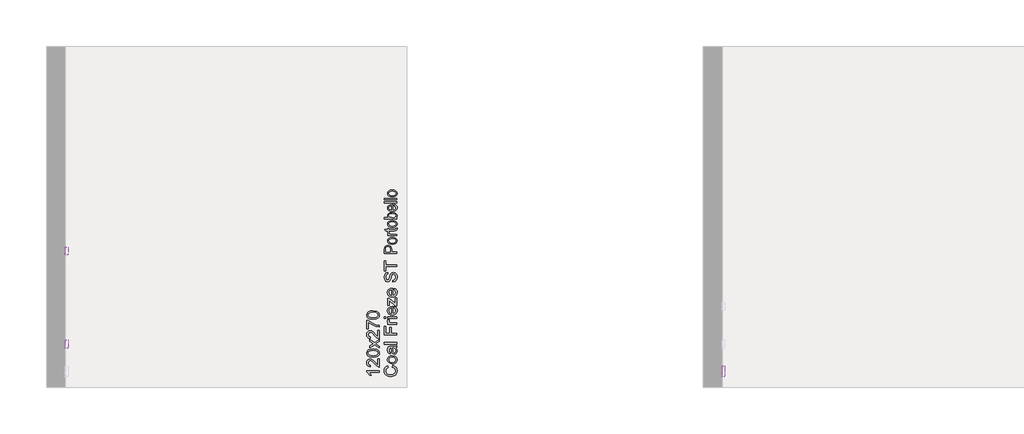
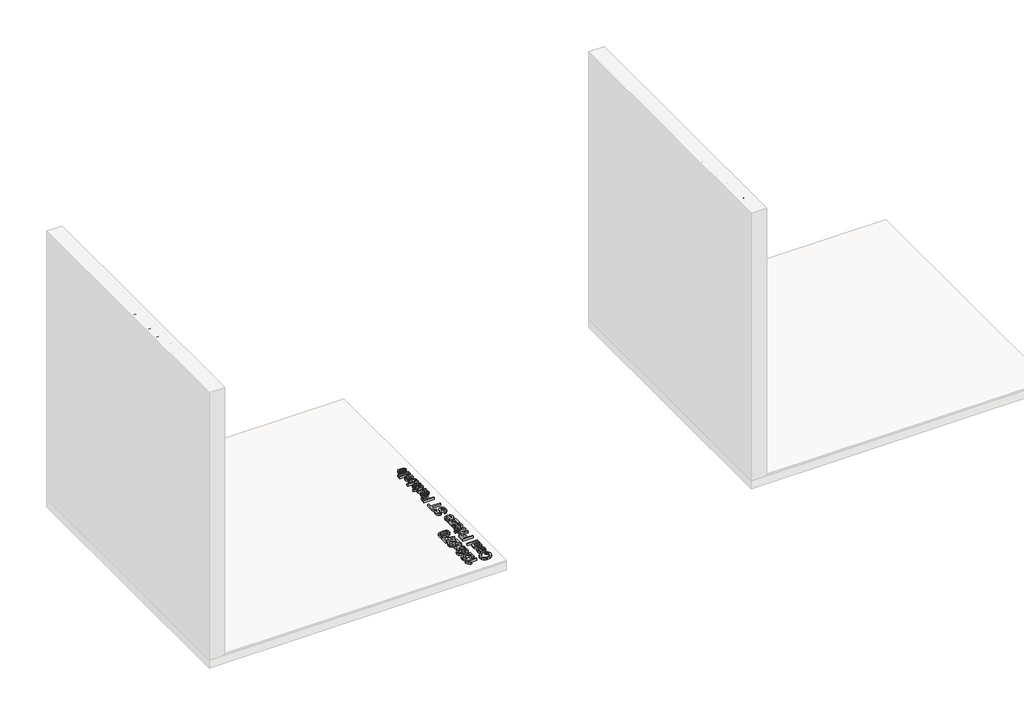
# One storey, part 17 of 19: 6 proxies.
"""IFC4 building model written with IfcOpenShell, lengths in millimetres."""

from ifc_helpers import new_model, si_unit, frame, origin, origin_with_axes, place, context, project, spatial, polyline, outline, extrude, element, save

model = new_model("IFC4")

# Units and contexts
model_context = context("Model", 3, world=origin())
ifc_project = project(units=[si_unit("LENGTHUNIT", "METRE", prefix="MILLI")], contexts=[model_context])

# Site, building, storey
site = spatial("IfcSite", under=ifc_project)
building = spatial("IfcBuilding", under=site)
storey = spatial("IfcBuildingStorey", under=building, Name="PORTOBELLO - SHOWROOM", Elevation=0.0)

# Proxies
placement = place(None, origin())
element("IfcBuildingElementProxy", 1, Name="10mm Arial", ObjectType="10mm Arial", at=placement, inside=storey, context=model_context, shape_type="SweptSolid", body=[
    extrude(outline(polyline([(26157.6221127, 2551.8986693), (26170.1791514, 2548.6613078), (26164.38501, 2534.0288014), (26155.2921934, 2523.3387638), (26143.3482912, 2516.7996613), (26129.0008934, 2514.6199605), (26114.4358321, 2516.2692981), (26102.869009, 2521.2173109), (26094.003053, 2529.2923207), (26087.5405926, 2540.3226492), (26082.27988, 2567.1780349), (26083.7667364, 2581.8258696), (26088.2273056, 2594.4748789), (26095.4285957, 2604.7234582), (26105.1376147, 2612.1700029), (26116.6523211, 2616.7041485), (26129.2706736, 2618.2155303), (26143.0386572, 2616.2596244), (26154.4215393, 2610.3919066), (26163.0637005, 2600.9741275), (26168.6095216, 2588.3680378), (26156.0524828, 2585.3759309), (26145.7517869, 2600.814712), (26128.7801642, 2605.6584916), (26109.1352657, 2600.2874144), (26098.0374922, 2585.8664402), (26094.8369188, 2567.2025603), (26098.6261034, 2545.571099), (26110.4228527, 2531.7509987), (26127.7500947, 2527.1769993), (26138.2316658, 2528.7343664), (26146.9657975, 2533.4064677), (26153.5600823, 2541.1442523), (26157.6221127, 2551.8986693)])), frame((8905.7966975, 0.0, 0.0), z_axis=(1.0, 0.0, 0.0), x_axis=(0.0, 1.0, 0.0)), (0.0, 0.0, 1.0), 20.0),
    extrude(outline(polyline([(26182.7361902, 2553.0758917), (26185.4523856, 2570.8629862), (26193.6009718, 2583.3648427), (26203.6686757, 2589.4900779), (26215.7229424, 2591.531823), (26228.9145776, 2589.0455538), (26239.4513311, 2581.5867464), (26246.3583156, 2569.7440118), (26248.6606437, 2554.1059613), (26244.5894163, 2531.7632615), (26232.7313533, 2519.1203836), (26215.7229424, 2514.6199605), (26202.3718917, 2517.0970326), (26191.8474009, 2524.5282489), (26185.0139929, 2536.6193038), (26182.7361902, 2553.0758917)]), holes=[polyline([(26195.293229, 2553.1004172), (26196.7463628, 2541.7359292), (26201.1057645, 2533.6394596), (26207.6663267, 2528.7926144), (26215.7229424, 2527.1769993), (26223.7427699, 2528.8018114), (26230.2910694, 2533.6762478), (26234.6504711, 2541.8800163), (26236.103605, 2553.4928247), (26234.641274, 2564.5262188), (26230.2542812, 2572.5123238), (26223.6967847, 2577.3591691), (26215.7229424, 2578.9747842), (26207.6663267, 2577.3653005), (26201.1057645, 2572.5368493), (26196.7463628, 2564.4587738), (26195.293229, 2553.1004172)])]), frame((8905.7966975, 0.0, 0.0), z_axis=(1.0, 0.0, 0.0), x_axis=(0.0, 1.0, 0.0)), (0.0, 0.0, 1.0), 20.0),
    extrude(outline(polyline([(26309.8762077, 2525.6073694), (26297.6993137, 2517.0970326), (26284.2470954, 2514.6199605), (26273.7532615, 2516.1098826), (26266.0124112, 2520.5796488), (26261.2391423, 2527.3670716), (26259.6480527, 2535.8099634), (26262.0515484, 2545.7427773), (26268.3668559, 2552.9532644), (26277.1592356, 2557.0735427), (26288.0240172, 2558.9620036), (26309.8026313, 2563.2784857), (26309.8762077, 2566.0743889), (26306.418117, 2575.3450152), (26292.536703, 2578.9747842), (26279.8325115, 2576.5590258), (26273.7747213, 2567.9873753), (26261.2176825, 2569.5570051), (26266.6500733, 2581.8197383), (26277.5884313, 2589.0056999), (26294.1553838, 2591.531823), (26309.3734357, 2589.3000055), (26317.9696116, 2583.6959365), (26321.8201098, 2575.1733369), (26322.4332465, 2564.185928), (26322.4332465, 2548.5632059), (26323.0709086, 2526.7478036), (26325.5725062, 2516.1895903), (26313.0154674, 2516.1895903), (26309.8762077, 2525.6073694)]), holes=[polyline([(26309.8762077, 2550.721447), (26289.6181725, 2546.8709487), (26278.8147046, 2544.835335), (26273.9218741, 2541.5243971), (26272.2050914, 2536.6928802), (26275.945225, 2529.899326), (26286.9203712, 2527.1769993), (26299.6245628, 2530.1813689), (26307.8160686, 2537.4531697), (26309.8026313, 2547.1652543), (26309.8762077, 2550.721447)])]), frame((8905.7966975, 0.0, 0.0), z_axis=(1.0, 0.0, 0.0), x_axis=(0.0, 1.0, 0.0)), (0.0, 0.0, 1.0), 20.0),
    extrude(outline(polyline([(8925.7966975, 26352.2562136), (8925.7966975, 26339.6991748), (8905.7966975, 26339.6991748), (8905.7966975, 26352.2562136), (8925.7966975, 26352.2562136)])), frame((0.0, 0.0, 2516.1895903), z_axis=(0.0, 0.0, 1.0), x_axis=(1.0, 0.0, 0.0)), (0.0, 0.0, 1.0), 100.4563101),
    extrude(outline(polyline([(26407.1932582, 2550.721447), (26419.750297, 2550.721447), (26423.7969989, 2538.1521455), (26433.6807618, 2530.2058944), (26448.7393982, 2527.1769993), (26461.8605227, 2529.4701304), (26470.3340713, 2535.7731752), (26473.1177117, 2544.1976729), (26471.0330471, 2552.0335594), (26462.4981848, 2557.7357303), (26444.2144496, 2562.530459), (26424.5327629, 2568.7231393), (26413.8519223, 2578.0673419), (26410.3325179, 2590.5508043), (26414.6857882, 2604.763312), (26427.4022425, 2614.7942278), (26446.0170714, 2618.2155303), (26465.8826992, 2614.6348123), (26479.126451, 2604.1133872), (26484.1051206, 2588.3925633), (26471.5480819, 2588.3925633), (26469.242688, 2595.8850932), (26464.4356966, 2601.2929586), (26446.5075807, 2605.6584916), (26428.5304139, 2601.3420095), (26422.8895566, 2590.9186863), (26426.8872077, 2582.2121457), (26447.3904975, 2575.1978624), (26469.61057, 2568.8948175), (26481.7629386, 2558.716749), (26485.6747505, 2544.516504), (26481.1743274, 2529.4946558), (26468.2248812, 2518.5317724), (26449.2299075, 2514.6199605), (26426.8013685, 2518.8383407), (26412.6133863, 2531.5425323), (26407.1932582, 2550.721447)])), frame((8905.7966975, 0.0, 0.0), z_axis=(1.0, 0.0, 0.0), x_axis=(0.0, 1.0, 0.0)), (0.0, 0.0, 1.0), 20.0),
    extrude(outline(polyline([(26529.6243862, 2516.1895903), (26529.6243862, 2604.0888617), (26496.6621594, 2604.0888617), (26496.6621594, 2616.6459005), (26575.1436517, 2616.6459005), (26575.1436517, 2604.0888617), (26542.181425, 2604.0888617), (26542.181425, 2516.1895903), (26529.6243862, 2516.1895903)])), frame((8905.7966975, 0.0, 0.0), z_axis=(1.0, 0.0, 0.0), x_axis=(0.0, 1.0, 0.0)), (0.0, 0.0, 1.0), 20.0),
])
element("IfcBuildingElementProxy", 2, Name="10mm Arial", ObjectType="10mm Arial", at=placement, inside=storey, context=model_context, shape_type="SweptSolid", body=[
    extrude(outline(polyline([(6294.5159023, 26160.9791147), (6297.7532639, 26173.5361535), (6312.3857702, 26167.7420121), (6323.0758079, 26158.6491954), (6329.6149103, 26146.7052933), (6331.7946112, 26132.3578955), (6330.1452735, 26117.7928342), (6325.1972607, 26106.2260111), (6317.1222509, 26097.360055), (6306.0919224, 26090.8975947), (6279.2365368, 26085.6368821), (6264.588702, 26087.1237385), (6251.9396927, 26091.5843077), (6241.6911135, 26098.7855978), (6234.2445688, 26108.4946168), (6229.7104232, 26120.0093232), (6228.1990413, 26132.6276757), (6230.1549473, 26146.3956593), (6236.0226651, 26157.7785414), (6245.4404442, 26166.4207026), (6258.0465339, 26171.9665237), (6261.0386408, 26159.4094849), (6245.5998597, 26149.108789), (6240.7560801, 26132.1371663), (6246.1271572, 26112.4922678), (6260.5481314, 26101.3944943), (6279.2120113, 26098.1939209), (6300.8434726, 26101.9831055), (6314.6635729, 26113.7798548), (6319.2375724, 26131.1070967), (6317.6802053, 26141.5886679), (6313.0081039, 26150.3227996), (6305.2703193, 26156.9170844), (6294.5159023, 26160.9791147)])), origin_with_axes(), (0.0, 0.0, 1.0), 20.0),
    extrude(outline(polyline([(6293.3386799, 26186.0931923), (6275.5515855, 26188.8093877), (6263.049729, 26196.9579739), (6256.9244938, 26207.0256778), (6254.8827487, 26219.0799445), (6257.3690179, 26232.2715797), (6264.8278253, 26242.8083332), (6276.6705599, 26249.7153177), (6292.3086103, 26252.0176458), (6314.6513102, 26247.9464184), (6327.2941881, 26236.0883554), (6331.7946112, 26219.0799445), (6329.3175391, 26205.7288938), (6321.8863228, 26195.204403), (6309.7952678, 26188.370995), (6293.3386799, 26186.0931923)]), holes=[polyline([(6293.3141545, 26198.6502311), (6304.6786424, 26200.1033649), (6312.775112, 26204.4627666), (6317.6219573, 26211.0233288), (6319.2375724, 26219.0799445), (6317.6127602, 26227.099772), (6312.7383238, 26233.6480715), (6304.5345553, 26238.0074732), (6292.921747, 26239.4606071), (6281.8883528, 26237.9982761), (6273.9022479, 26233.6112833), (6269.0554026, 26227.0537868), (6267.4397875, 26219.0799445), (6269.0492712, 26211.0233288), (6273.8777224, 26204.4627666), (6281.9557979, 26200.1033649), (6293.3141545, 26198.6502311)])]), origin_with_axes(), (0.0, 0.0, 1.0), 20.0),
    extrude(outline(polyline([(6320.8072022, 26313.2332098), (6329.3175391, 26301.0563158), (6331.7946112, 26287.6040975), (6330.3046891, 26277.1102636), (6325.8349228, 26269.3694133), (6319.0475, 26264.5961444), (6310.6046082, 26263.0050547), (6300.6717944, 26265.4085504), (6293.4613073, 26271.723858), (6289.3410289, 26280.5162377), (6287.452568, 26291.3810193), (6283.1360859, 26313.1596334), (6280.3401828, 26313.2332098), (6271.0695565, 26309.7751191), (6267.4397875, 26295.8937051), (6269.8555459, 26283.1895135), (6278.4271964, 26277.1317234), (6276.8575665, 26264.5746846), (6264.5948334, 26270.0070754), (6257.4088717, 26280.9454334), (6254.8827487, 26297.5123859), (6257.1145661, 26312.7304378), (6262.7186352, 26321.3266137), (6271.2412348, 26325.1771119), (6282.2286437, 26325.7902486), (6297.8513657, 26325.7902486), (6319.6667681, 26326.4279107), (6330.2249813, 26328.9295083), (6330.2249813, 26316.3724695), (6320.8072022, 26313.2332098)]), holes=[polyline([(6295.6931247, 26313.2332098), (6299.5436229, 26292.9751746), (6301.5792366, 26282.1717067), (6304.8901746, 26277.2788762), (6309.7216914, 26275.5620935), (6316.5152456, 26279.3022271), (6319.2375724, 26290.2773733), (6316.2332028, 26302.9815649), (6308.961402, 26311.1730706), (6299.2493173, 26313.1596334), (6295.6931247, 26313.2332098)])]), origin_with_axes(), (0.0, 0.0, 1.0), 20.0),
    extrude(outline(polyline([(6330.2249813, 26343.0561769), (6229.7686712, 26343.0561769), (6229.7686712, 26355.6132157), (6330.2249813, 26355.6132157), (6330.2249813, 26343.0561769)])), origin_with_axes(), (0.0, 0.0, 1.0), 20.0),
    extrude(outline(polyline([(6330.2249813, 26415.2591498), (6229.7686712, 26415.2591498), (6229.7686712, 26482.7532332), (6242.3257099, 26482.7532332), (6242.3257099, 26427.8161886), (6272.148677, 26427.8161886), (6272.148677, 26474.905084), (6284.7057158, 26474.905084), (6284.7057158, 26427.8161886), (6330.2249813, 26427.8161886), (6330.2249813, 26415.2591498)])), origin_with_axes(), (0.0, 0.0, 1.0), 20.0),
    extrude(outline(polyline([(6330.2249813, 26498.4495317), (6256.4523785, 26498.4495317), (6256.4523785, 26509.4369406), (6267.3662111, 26509.4369406), (6257.3107699, 26517.2360389), (6254.8827487, 26525.0841881), (6258.7577724, 26537.6902778), (6270.0149614, 26533.4964231), (6267.4397875, 26524.6672552), (6269.9168596, 26517.5671327), (6276.7839901, 26513.0421841), (6291.450219, 26511.0065704), (6330.2249813, 26511.0065704), (6330.2249813, 26498.4495317)])), origin_with_axes(), (0.0, 0.0, 1.0), 20.0),
    extrude(outline(polyline([(6330.2249813, 26545.538427), (6256.4523785, 26545.538427), (6256.4523785, 26558.0954658), (6330.2249813, 26558.0954658), (6330.2249813, 26545.538427)])), origin_with_axes(), (0.0, 0.0, 1.0), 20.0),
    extrude(outline(polyline([(6242.3257099, 26545.538427), (6229.7686712, 26545.538427), (6229.7686712, 26558.0954658), (6242.3257099, 26558.0954658), (6242.3257099, 26545.538427)])), origin_with_axes(), (0.0, 0.0, 1.0), 20.0),
    extrude(outline(polyline([(6308.2501635, 26628.5816561), (6309.8197933, 26640.8934402), (6319.096551, 26636.4573965), (6326.0311266, 26629.3787337), (6330.35374, 26619.8168675), (6331.7946112, 26607.9312134), (6329.308342, 26593.1975395), (6321.8495346, 26581.8606427), (6309.9025668, 26574.6317615), (6293.9518166, 26572.2221344), (6277.4645718, 26574.656287), (6265.1343936, 26581.9587446), (6257.4456599, 26593.1423572), (6254.8827487, 26607.2199749), (6257.4395286, 26620.8591999), (6265.1098682, 26631.757704), (6277.4155209, 26638.9038117), (6293.8782402, 26641.2858476), (6297.2627545, 26641.2122713), (6297.2627545, 26584.7791732), (6306.6621395, 26586.9527426), (6313.5721897, 26592.001923), (6317.8212267, 26599.2890522), (6319.2375724, 26608.1764681), (6316.6133475, 26620.4882522), (6308.2501635, 26628.5816561)]), holes=[polyline([(6284.7057158, 26584.7791732), (6284.7057158, 26628.7288089), (6273.3258994, 26623.7010883), (6268.9113155, 26616.3802366), (6267.4397875, 26607.170924), (6272.1364143, 26591.7076174), (6277.6270531, 26586.842378), (6284.7057158, 26584.7791732)])]), origin_with_axes(), (0.0, 0.0, 1.0), 20.0),
    extrude(outline(polyline([(6330.2249813, 26645.9947372), (6318.4037065, 26645.9947372), (6269.0094173, 26689.3312362), (6269.0094173, 26676.5044173), (6269.0094173, 26649.1339969), (6256.4523785, 26649.1339969), (6256.4523785, 26707.2103012), (6267.1209564, 26707.2103012), (6310.9479648, 26668.7788954), (6317.6679425, 26662.8927835), (6317.6679425, 26677.4118596), (6317.6679425, 26708.779931), (6330.2249813, 26708.779931), (6330.2249813, 26645.9947372)])), origin_with_axes(), (0.0, 0.0, 1.0), 20.0),
    extrude(outline(polyline([(6308.2501635, 26772.9876019), (6309.8197933, 26785.299386), (6319.096551, 26780.8633423), (6326.0311266, 26773.7846796), (6330.35374, 26764.2228134), (6331.7946112, 26752.3371593), (6329.308342, 26737.6034854), (6321.8495346, 26726.2665885), (6309.9025668, 26719.0377073), (6293.9518166, 26716.6280803), (6277.4645718, 26719.0622328), (6265.1343936, 26726.3646904), (6257.4456599, 26737.5483031), (6254.8827487, 26751.6259207), (6257.4395286, 26765.2651457), (6265.1098682, 26776.1636498), (6277.4155209, 26783.3097576), (6293.8782402, 26785.6917935), (6297.2627545, 26785.6182171), (6297.2627545, 26729.185119), (6306.6621395, 26731.3586885), (6313.5721897, 26736.4078689), (6317.8212267, 26743.6949981), (6319.2375724, 26752.5824139), (6316.6133475, 26764.894198), (6308.2501635, 26772.9876019)]), holes=[polyline([(6284.7057158, 26729.185119), (6284.7057158, 26773.1347547), (6273.3258994, 26768.1070341), (6268.9113155, 26760.7861824), (6267.4397875, 26751.5768698), (6272.1364143, 26736.1135633), (6277.6270531, 26731.2483239), (6284.7057158, 26729.185119)])]), origin_with_axes(), (0.0, 0.0, 1.0), 20.0),
    extrude(outline(polyline([(6295.6931247, 26834.3503187), (6295.6931247, 26846.9073575), (6308.2624262, 26850.9540594), (6316.2086773, 26860.8378224), (6319.2375724, 26875.8964587), (6316.9444413, 26889.0175832), (6310.6413964, 26897.4911318), (6302.2168987, 26900.2747723), (6294.3810123, 26898.1901076), (6288.6788413, 26889.6552453), (6283.8841127, 26871.3715102), (6277.6914324, 26851.6898234), (6268.3472297, 26841.0089828), (6255.8637674, 26837.4895784), (6241.6512596, 26841.8428487), (6231.6203439, 26854.559303), (6228.1990413, 26873.1741319), (6231.7797594, 26893.0397597), (6242.3011845, 26906.2835115), (6258.0220084, 26911.2621812), (6258.0220084, 26898.7051424), (6250.5294784, 26896.3997486), (6245.1216131, 26891.5927572), (6240.7560801, 26873.6646413), (6245.0725622, 26855.6874744), (6255.4958854, 26850.0466172), (6264.2024259, 26854.0442682), (6271.2167093, 26874.5475581), (6277.5197541, 26896.7676306), (6287.6978227, 26908.9199991), (6301.8980677, 26912.831811), (6316.9199158, 26908.3313879), (6327.8827993, 26895.3819417), (6331.7946112, 26876.386968), (6327.5762309, 26853.9584291), (6314.8720394, 26839.7704468), (6295.6931247, 26834.3503187)])), origin_with_axes(), (0.0, 0.0, 1.0), 20.0),
    extrude(outline(polyline([(6330.2249813, 26956.7814467), (6242.3257099, 26956.7814467), (6242.3257099, 26923.8192199), (6229.7686712, 26923.8192199), (6229.7686712, 27002.3007122), (6242.3257099, 27002.3007122), (6242.3257099, 26969.3384855), (6330.2249813, 26969.3384855), (6330.2249813, 26956.7814467)])), origin_with_axes(), (0.0, 0.0, 1.0), 20.0),
])
element("IfcBuildingElementProxy", 3, Name="10mm Arial", ObjectType="10mm Arial", at=placement, inside=storey, context=model_context, shape_type="SweptSolid", body=[
    extrude(outline(polyline([(26129.3687754, 2381.1895903), (26116.8117367, 2381.1895903), (26116.8117367, 2459.4748789), (26104.9168855, 2451.0013303), (26091.6976591, 2444.6614972), (26091.6976591, 2456.531823), (26110.1040216, 2468.2795213), (26121.2753715, 2481.6459005), (26129.3687754, 2481.6459005), (26129.3687754, 2381.1895903)])), frame((3705.7966975, 0.0, 0.0), z_axis=(1.0, 0.0, 0.0), x_axis=(0.0, 1.0, 0.0)), (0.0, 0.0, 1.0), 20.0),
    extrude(outline(polyline([(26223.5465662, 2393.7466291), (26223.5465662, 2381.1895903), (26157.6221127, 2381.1895903), (26158.9710133, 2389.84708), (26166.6106961, 2403.1766709), (26182.3437827, 2417.7325352), (26204.0120323, 2438.652758), (26209.4198976, 2452.8775285), (26204.3063378, 2464.3922349), (26190.9522214, 2469.0888617), (26177.0340193, 2464.5025995), (26171.7487813, 2451.8229334), (26159.1917425, 2453.3925633), (26162.235966, 2465.5388005), (26168.817988, 2474.4108879), (26178.5944521, 2479.8371473), (26191.2220016, 2481.6459005), (26203.9415215, 2479.6348123), (26213.6995915, 2473.6015475), (26219.9076001, 2464.5884386), (26221.9769364, 2453.6378179), (26219.7451189, 2441.730704), (26212.3261653, 2429.4189199), (26194.3367358, 2412.2143053), (26179.8912361, 2400.1355131), (26174.2258534, 2393.7466291), (26223.5465662, 2393.7466291)])), frame((3705.7966975, 0.0, 0.0), z_axis=(1.0, 0.0, 0.0), x_axis=(0.0, 1.0, 0.0)), (0.0, 0.0, 1.0), 20.0),
    extrude(outline(polyline([(26236.103605, 2430.608405), (26239.7946876, 2459.5116671), (26250.7575711, 2476.1767215), (26269.0658317, 2481.6459005), (26283.7320606, 2478.4085389), (26293.8610782, 2469.076599), (26299.7471901, 2454.2141664), (26302.0280585, 2430.608405), (26298.373764, 2401.8277703), (26287.4476688, 2385.1259277), (26279.2163091, 2380.9964523), (26269.0658317, 2379.6199605), (26256.0182836, 2382.0111935), (26246.1099952, 2389.1848924), (26238.6052025, 2406.1749092), (26236.103605, 2430.608405)]), holes=[polyline([(26248.6606437, 2430.6329305), (26250.1321717, 2410.880733), (26254.5467557, 2399.4488), (26261.1195806, 2393.9949495), (26269.0658317, 2392.1769993), (26277.0120828, 2394.0010808), (26283.5849078, 2399.4733255), (26287.9994918, 2410.9113899), (26289.4710197, 2430.6329305), (26288.0485427, 2449.9406039), (26283.7811115, 2461.4614417), (26277.2205493, 2467.1820067), (26268.9186789, 2469.0888617), (26261.058267, 2467.4088673), (26254.7429594, 2462.3688839), (26250.1812226, 2450.1306762), (26248.6606437, 2430.6329305)])]), frame((3705.7966975, 0.0, 0.0), z_axis=(1.0, 0.0, 0.0), x_axis=(0.0, 1.0, 0.0)), (0.0, 0.0, 1.0), 20.0),
    extrude(outline(polyline([(26308.3065779, 2381.1895903), (26335.1374381, 2418.2966209), (26309.8762077, 2454.9621931), (26324.9348441, 2454.9621931), (26337.1240008, 2437.2793319), (26342.8384345, 2428.9651988), (26347.7925787, 2435.7832784), (26361.6739927, 2454.9621931), (26376.7816799, 2454.9621931), (26350.2451253, 2418.2720955), (26375.8006613, 2381.1895903), (26360.7174995, 2381.1895903), (26345.3155066, 2403.5077647), (26342.5196034, 2407.6035176), (26323.4142652, 2381.1895903), (26308.3065779, 2381.1895903)])), frame((3705.7966975, 0.0, 0.0), z_axis=(1.0, 0.0, 0.0), x_axis=(0.0, 1.0, 0.0)), (0.0, 0.0, 1.0), 20.0),
    extrude(outline(polyline([(26448.0036342, 2393.7466291), (26448.0036342, 2381.1895903), (26382.0791807, 2381.1895903), (26383.4280813, 2389.84708), (26391.0677641, 2403.1766709), (26406.8008507, 2417.7325352), (26428.4691002, 2438.652758), (26433.8769656, 2452.8775285), (26428.7634058, 2464.3922349), (26415.4092894, 2469.0888617), (26401.4910873, 2464.5025995), (26396.2058493, 2451.8229334), (26383.6488105, 2453.3925633), (26386.693034, 2465.5388005), (26393.275056, 2474.4108879), (26403.0515201, 2479.8371473), (26415.6790695, 2481.6459005), (26428.3985895, 2479.6348123), (26438.1566594, 2473.6015475), (26444.3646681, 2464.5884386), (26446.4340043, 2453.6378179), (26444.2021869, 2441.730704), (26436.7832333, 2429.4189199), (26418.7938038, 2412.2143053), (26404.3483041, 2400.1355131), (26398.6829214, 2393.7466291), (26448.0036342, 2393.7466291)])), frame((3705.7966975, 0.0, 0.0), z_axis=(1.0, 0.0, 0.0), x_axis=(0.0, 1.0, 0.0)), (0.0, 0.0, 1.0), 20.0),
    extrude(outline(polyline([(26460.560673, 2467.5192319), (26460.560673, 2480.0762706), (26526.4851265, 2480.0762706), (26526.4851265, 2469.9227276), (26507.7844584, 2442.9079264), (26493.4738488, 2408.4864344), (26488.8140102, 2381.1895903), (26476.2569714, 2381.1895903), (26481.2479038, 2409.516504), (26494.9453768, 2441.5345003), (26513.9280877, 2467.5192319), (26460.560673, 2467.5192319)])), frame((3705.7966975, 0.0, 0.0), z_axis=(1.0, 0.0, 0.0), x_axis=(0.0, 1.0, 0.0)), (0.0, 0.0, 1.0), 20.0),
    extrude(outline(polyline([(26537.4725354, 2430.608405), (26541.1636181, 2459.5116671), (26552.1265016, 2476.1767215), (26570.4347622, 2481.6459005), (26585.1009911, 2478.4085389), (26595.2300087, 2469.076599), (26601.1161206, 2454.2141664), (26603.3969889, 2430.608405), (26599.7426945, 2401.8277703), (26588.8165992, 2385.1259277), (26580.5852396, 2380.9964523), (26570.4347622, 2379.6199605), (26557.3872141, 2382.0111935), (26547.4789257, 2389.1848924), (26539.974133, 2406.1749092), (26537.4725354, 2430.608405)]), holes=[polyline([(26550.0295742, 2430.6329305), (26551.5011022, 2410.880733), (26555.9156861, 2399.4488), (26562.4885111, 2393.9949495), (26570.4347622, 2392.1769993), (26578.3810133, 2394.0010808), (26584.9538383, 2399.4733255), (26589.3684222, 2410.9113899), (26590.8399502, 2430.6329305), (26589.4174731, 2449.9406039), (26585.150042, 2461.4614417), (26578.5894797, 2467.1820067), (26570.2876094, 2469.0888617), (26562.4271974, 2467.4088673), (26556.1118898, 2462.3688839), (26551.5501531, 2450.1306762), (26550.0295742, 2430.6329305)])]), frame((3705.7966975, 0.0, 0.0), z_axis=(1.0, 0.0, 0.0), x_axis=(0.0, 1.0, 0.0)), (0.0, 0.0, 1.0), 20.0),
])
element("IfcBuildingElementProxy", 4, Name="10mm Arial", ObjectType="10mm Arial", at=placement, inside=storey, context=model_context, shape_type="SweptSolid", body=[
    extrude(outline(polyline([(6190.2249813, 26132.7257775), (6190.2249813, 26120.1687387), (6111.9396927, 26120.1687387), (6120.4132414, 26108.2738876), (6126.7530744, 26095.0546612), (6114.8827487, 26095.0546612), (6103.1350503, 26113.4610237), (6089.7686712, 26124.6323736), (6089.7686712, 26132.7257775), (6190.2249813, 26132.7257775)])), origin_with_axes(), (0.0, 0.0, 1.0), 20.0),
    extrude(outline(polyline([(6177.6679425, 26226.9035683), (6190.2249813, 26226.9035683), (6190.2249813, 26160.9791147), (6181.5674917, 26162.3280154), (6168.2379007, 26169.9676982), (6153.6820365, 26185.7007848), (6132.7618137, 26207.3690343), (6118.5370432, 26212.7768997), (6107.0223367, 26207.6633399), (6102.3257099, 26194.3092235), (6106.9119721, 26180.3910214), (6119.5916382, 26175.1057834), (6118.0220084, 26162.5487446), (6105.8757712, 26165.5929681), (6097.0036837, 26172.1749901), (6091.5774243, 26181.9514542), (6089.7686712, 26194.5790036), (6091.7797594, 26207.2985236), (6097.8130241, 26217.0565935), (6106.826133, 26223.2646022), (6117.7767537, 26225.3339384), (6129.6838676, 26223.102121), (6141.9956517, 26215.6831674), (6159.2002664, 26197.6937379), (6171.2790586, 26183.2482382), (6177.6679425, 26177.5828555), (6177.6679425, 26226.9035683)])), origin_with_axes(), (0.0, 0.0, 1.0), 20.0),
    extrude(outline(polyline([(6140.8061666, 26239.4606071), (6111.9029045, 26243.1516897), (6095.2378502, 26254.1145732), (6089.7686712, 26272.4228338), (6093.0060327, 26287.0890627), (6102.3379727, 26297.2180803), (6117.2004053, 26303.1041922), (6140.8061666, 26305.3850606), (6169.5868014, 26301.7307661), (6186.288644, 26290.8046708), (6190.4181194, 26282.5733112), (6191.7946112, 26272.4228338), (6189.4033782, 26259.3752857), (6182.2296793, 26249.4669973), (6165.2396625, 26241.9622046), (6140.8061666, 26239.4606071)]), holes=[polyline([(6140.7816412, 26252.0176458), (6160.5338386, 26253.4891738), (6171.9657716, 26257.9037577), (6177.4196222, 26264.4765827), (6179.2375724, 26272.4228338), (6177.4134908, 26280.3690849), (6171.9412462, 26286.9419099), (6160.5031818, 26291.3564938), (6140.7816412, 26292.8280218), (6121.4739678, 26291.4055448), (6109.95313, 26287.1381136), (6104.2325649, 26280.5775514), (6102.3257099, 26272.275681), (6104.0057044, 26264.4152691), (6109.0456877, 26258.0999615), (6121.2838954, 26253.5382247), (6140.7816412, 26252.0176458)])]), origin_with_axes(), (0.0, 0.0, 1.0), 20.0),
    extrude(outline(polyline([(6190.2249813, 26311.66358), (6153.1179507, 26338.4944402), (6116.4523785, 26313.2332098), (6116.4523785, 26328.2918462), (6134.1352398, 26340.4810029), (6142.4493729, 26346.1954366), (6135.6312932, 26351.1495808), (6116.4523785, 26365.0309947), (6116.4523785, 26380.138682), (6153.1424762, 26353.6021274), (6190.2249813, 26379.1576634), (6190.2249813, 26364.0745016), (6167.9068069, 26348.6725087), (6163.8110541, 26345.8766055), (6190.2249813, 26326.7712672), (6190.2249813, 26311.66358)])), origin_with_axes(), (0.0, 0.0, 1.0), 20.0),
    extrude(outline(polyline([(6177.6679425, 26451.3606363), (6190.2249813, 26451.3606363), (6190.2249813, 26385.4361827), (6181.5674917, 26386.7850834), (6168.2379007, 26394.4247662), (6153.6820365, 26410.1578528), (6132.7618137, 26431.8261023), (6118.5370432, 26437.2339677), (6107.0223367, 26432.1204079), (6102.3257099, 26418.7662915), (6106.9119721, 26404.8480893), (6119.5916382, 26399.5628514), (6118.0220084, 26387.0058126), (6105.8757712, 26390.0500361), (6097.0036837, 26396.6320581), (6091.5774243, 26406.4085221), (6089.7686712, 26419.0360716), (6091.7797594, 26431.7555916), (6097.8130241, 26441.5136615), (6106.826133, 26447.7216702), (6117.7767537, 26449.7910064), (6129.6838676, 26447.559189), (6141.9956517, 26440.1402354), (6159.2002664, 26422.1508059), (6171.2790586, 26407.7053062), (6177.6679425, 26402.0399235), (6177.6679425, 26451.3606363)])), origin_with_axes(), (0.0, 0.0, 1.0), 20.0),
    extrude(outline(polyline([(6103.8953398, 26463.917675), (6091.338301, 26463.917675), (6091.338301, 26529.8421286), (6101.4918441, 26529.8421286), (6128.5066453, 26511.1414605), (6162.9281373, 26496.8308509), (6190.2249813, 26492.1710123), (6190.2249813, 26479.6139735), (6161.8980677, 26484.6049059), (6129.8800714, 26498.3023789), (6103.8953398, 26517.2850898), (6103.8953398, 26463.917675)])), origin_with_axes(), (0.0, 0.0, 1.0), 20.0),
    extrude(outline(polyline([(6140.8061666, 26540.8295375), (6111.9029045, 26544.5206202), (6095.2378502, 26555.4835036), (6089.7686712, 26573.7917643), (6093.0060327, 26588.4579931), (6102.3379727, 26598.5870107), (6117.2004053, 26604.4731227), (6140.8061666, 26606.753991), (6169.5868014, 26603.0996965), (6186.288644, 26592.1736013), (6190.4181194, 26583.9422417), (6191.7946112, 26573.7917643), (6189.4033782, 26560.7442162), (6182.2296793, 26550.8359278), (6165.2396625, 26543.3311351), (6140.8061666, 26540.8295375)]), holes=[polyline([(6140.7816412, 26553.3865763), (6160.5338386, 26554.8581042), (6171.9657716, 26559.2726882), (6177.4196222, 26565.8455132), (6179.2375724, 26573.7917643), (6177.4134908, 26581.7380154), (6171.9412462, 26588.3108403), (6160.5031818, 26592.7254243), (6140.7816412, 26594.1969523), (6121.4739678, 26592.7744752), (6109.95313, 26588.5070441), (6104.2325649, 26581.9464818), (6102.3257099, 26573.6446115), (6104.0057044, 26565.7841995), (6109.0456877, 26559.4688919), (6121.2838954, 26554.9071552), (6140.7816412, 26553.3865763)])]), origin_with_axes(), (0.0, 0.0, 1.0), 20.0),
])
element("IfcBuildingElementProxy", 5, Name="10mm Arial Narrow", ObjectType="10mm Arial Narrow", at=placement, inside=storey, context=model_context, shape_type="SweptSolid", body=[
    extrude(outline(polyline([(6330.2249813, 27062.6596713), (6229.5063776, 27062.6596713), (6229.5063776, 27093.956556), (6231.3846983, 27110.2522575), (6240.8651415, 27121.7252436), (6257.8842503, 27126.014922), (6269.9600758, 27124.2286136), (6279.5864696, 27118.8696884), (6285.887728, 27109.1258996), (6287.9881475, 27094.1850004), (6287.9881475, 27072.406633), (6330.2249813, 27072.406633), (6330.2249813, 27062.6596713)]), holes=[polyline([(6276.6166922, 27072.406633), (6276.6166922, 27095.3779879), (6272.085878, 27111.2421833), (6258.4172873, 27116.2679604), (6248.2515108, 27113.7931459), (6242.451561, 27107.8155171), (6240.8778328, 27095.1495435), (6240.8778328, 27072.406633), (6276.6166922, 27072.406633)])]), origin_with_axes(), (0.0, 0.0, 1.0), 20.0),
    extrude(outline(polyline([(6293.6738751, 27134.1373901), (6277.0830996, 27136.091859), (6265.1310147, 27141.9552656), (6257.9064602, 27150.8138323), (6255.4982753, 27161.7537814), (6257.9064602, 27172.566817), (6265.1310147, 27181.4507665), (6276.8927292, 27187.3903212), (6292.9123937, 27189.3701728), (6310.0742803, 27187.4252224), (6322.2167355, 27181.5903714), (6329.4412901, 27172.7413232), (6331.8494749, 27161.7537814), (6329.4349444, 27150.8931533), (6322.1913528, 27142.0187224), (6310.2329223, 27136.1077232), (6293.6738751, 27134.1373901)]), holes=[polyline([(6293.6484924, 27143.8843517), (6306.2002438, 27145.1883886), (6315.0715019, 27149.1004992), (6320.3447604, 27154.9416959), (6322.1025133, 27162.0329913), (6320.3288962, 27168.7530645), (6315.0080451, 27174.4451378), (6306.1209228, 27178.3286928), (6293.6484924, 27179.6232111), (6281.1348151, 27178.3191743), (6272.2762484, 27174.4070637), (6267.0029898, 27168.5658669), (6265.245237, 27161.4745716), (6267.0125083, 27154.7069058), (6272.3143224, 27149.0243511), (6281.1824077, 27145.1693516), (6293.6484924, 27143.8843517)])]), origin_with_axes(), (0.0, 0.0, 1.0), 20.0),
    extrude(outline(polyline([(6322.1025133, 27260.8478916), (6331.8494749, 27262.4723852), (6331.8494749, 27255.1113985), (6329.7300184, 27246.8366342), (6323.9300686, 27242.5215731), (6309.2842434, 27241.3539683), (6266.8697306, 27241.3539683), (6266.8697306, 27233.2315002), (6263.6207433, 27233.2315002), (6268.4942242, 27231.6070066), (6266.8697306, 27224.0429583), (6269.1922488, 27217.9637986), (6275.6775319, 27214.0929349), (6291.0848384, 27212.1130833), (6330.2249813, 27212.1130833), (6330.2249813, 27202.3661217), (6257.1227689, 27202.3661217), (6257.1227689, 27212.1130833), (6266.8189651, 27212.1130833), (6257.731954, 27218.3572306), (6255.4982753, 27224.7536742), (6257.1227689, 27233.2315002), (6257.1227689, 27241.3539683), (6240.8778328, 27241.3539683), (6232.7553648, 27251.1009299), (6257.1227689, 27251.1009299), (6257.1227689, 27260.8478916), (6266.8697306, 27260.8478916), (6266.8697306, 27251.1009299), (6311.5179221, 27251.1009299), (6319.5134766, 27251.9639422), (6322.1025133, 27256.5835959), (6322.1025133, 27260.8478916)])), origin_with_axes(), (0.0, 0.0, 1.0), 20.0),
    extrude(outline(polyline([(6293.6738751, 27267.345866), (6277.0830996, 27269.3003349), (6265.1310147, 27275.1637415), (6257.9064602, 27284.0223082), (6255.4982753, 27294.9622574), (6257.9064602, 27305.775293), (6265.1310147, 27314.6592424), (6276.8927292, 27320.5987971), (6292.9123937, 27322.5786487), (6310.0742803, 27320.6336984), (6322.2167355, 27314.7988473), (6329.4412901, 27305.9497991), (6331.8494749, 27294.9622574), (6329.4349444, 27284.1016292), (6322.1913528, 27275.2271983), (6310.2329223, 27269.3161991), (6293.6738751, 27267.345866)]), holes=[polyline([(6293.6484924, 27277.0928277), (6306.2002438, 27278.3968645), (6315.0715019, 27282.3089751), (6320.3447604, 27288.1501719), (6322.1025133, 27295.2414672), (6320.3288962, 27301.9615404), (6315.0080451, 27307.6536137), (6306.1209228, 27311.5371687), (6293.6484924, 27312.8316871), (6281.1348151, 27311.5276502), (6272.2762484, 27307.6155396), (6267.0029898, 27301.7743429), (6265.245237, 27294.6830475), (6267.0125083, 27287.9153818), (6272.3143224, 27282.232827), (6281.1824077, 27278.3778275), (6293.6484924, 27277.0928277)])]), origin_with_axes(), (0.0, 0.0, 1.0), 20.0),
    extrude(outline(polyline([(6330.2249813, 27345.3215593), (6330.2249813, 27335.5745976), (6229.5063776, 27335.5745976), (6229.5063776, 27345.3215593), (6264.9152617, 27345.3215593), (6257.8334849, 27352.72062), (6255.4982753, 27361.9218533), (6259.6991142, 27374.80358), (6272.4285446, 27384.0809615), (6293.1154554, 27387.5583931), (6309.5697989, 27385.6261341), (6321.772538, 27379.8293571), (6329.3302407, 27371.4562348), (6331.8494749, 27361.7949398), (6329.2350555, 27352.4541015), (6321.4679455, 27345.3215593), (6330.2249813, 27345.3215593)]), holes=[polyline([(6293.1154554, 27345.3215593), (6310.3630087, 27347.4029417), (6319.0946618, 27353.291731), (6322.1025133, 27361.7441743), (6320.313032, 27367.6869019), (6314.9445883, 27372.9252592), (6293.5215788, 27377.8114314), (6272.085878, 27373.1029382), (6266.9553972, 27367.8582352), (6265.245237, 27361.5411126), (6267.0347182, 27355.5634838), (6272.4031619, 27350.2711882), (6293.1154554, 27345.3215593)])]), origin_with_axes(), (0.0, 0.0, 1.0), 20.0),
    extrude(outline(polyline([(6307.4820708, 27439.5421886), (6309.1065644, 27449.2891502), (6318.993131, 27445.5896199), (6326.1129819, 27439.770633), (6330.4153517, 27432.0669797), (6331.8494749, 27422.7134501), (6329.4349444, 27411.1198961), (6322.1913528, 27401.9757739), (6310.3852185, 27396.0362191), (6294.2830602, 27394.0563675), (6277.6161365, 27396.0457376), (6265.4356073, 27402.0138479), (6257.9826083, 27411.0278838), (6255.4982753, 27422.1550304), (6257.8969416, 27432.8379796), (6265.0929407, 27441.5854969), (6276.8324453, 27447.420348), (6292.8616283, 27449.3652984), (6296.1106155, 27449.2891502), (6296.1106155, 27403.8033292), (6315.5537734, 27409.8063407), (6320.4653283, 27415.736377), (6322.1025133, 27422.8403637), (6318.4474026, 27433.0188314), (6307.4820708, 27439.5421886)]), holes=[polyline([(6286.3636539, 27404.4632797), (6286.3636539, 27439.5421886), (6272.0985694, 27435.2778928), (6266.9585701, 27429.4525603), (6265.245237, 27422.2311785), (6270.9563473, 27410.0220938), (6286.3636539, 27404.4632797)])]), origin_with_axes(), (0.0, 0.0, 1.0), 20.0),
    extrude(outline(polyline([(6330.2249813, 27462.2850991), (6229.5063776, 27462.2850991), (6229.5063776, 27472.0320607), (6330.2249813, 27472.0320607), (6330.2249813, 27462.2850991)])), origin_with_axes(), (0.0, 0.0, 1.0), 20.0),
    extrude(outline(polyline([(6330.2249813, 27488.2769968), (6229.5063776, 27488.2769968), (6229.5063776, 27498.0239585), (6330.2249813, 27498.0239585), (6330.2249813, 27488.2769968)])), origin_with_axes(), (0.0, 0.0, 1.0), 20.0),
    extrude(outline(polyline([(6293.6738751, 27509.3954138), (6277.0830996, 27511.3498826), (6265.1310147, 27517.2132892), (6257.9064602, 27526.071856), (6255.4982753, 27537.0118051), (6257.9064602, 27547.8248407), (6265.1310147, 27556.7087901), (6276.8927292, 27562.6483449), (6292.9123937, 27564.6281965), (6310.0742803, 27562.6832461), (6322.2167355, 27556.848395), (6329.4412901, 27547.9993468), (6331.8494749, 27537.0118051), (6329.4349444, 27526.1511769), (6322.1913528, 27517.276746), (6310.2329223, 27511.3657468), (6293.6738751, 27509.3954138)]), holes=[polyline([(6293.6484924, 27519.1423754), (6306.2002438, 27520.4464123), (6315.0715019, 27524.3585229), (6320.3447604, 27530.1997196), (6322.1025133, 27537.2910149), (6320.3288962, 27544.0110881), (6315.0080451, 27549.7031614), (6306.1209228, 27553.5867165), (6293.6484924, 27554.8812348), (6281.1348151, 27553.5771979), (6272.2762484, 27549.6650874), (6267.0029898, 27543.8238906), (6265.245237, 27536.7325953), (6267.0125083, 27529.9649295), (6272.3143224, 27524.2823747), (6281.1824077, 27520.4273752), (6293.6484924, 27519.1423754)])]), origin_with_axes(), (0.0, 0.0, 1.0), 20.0),
])
element("IfcBuildingElementProxy", 6, Name="10mm Arial Narrow", ObjectType="10mm Arial Narrow", at=placement, inside=storey, context=model_context, shape_type="SweptSolid", body=[
    extrude(outline(polyline([(27050.7745931, 2516.1895903), (27050.7745931, 2616.9081941), (27082.0714778, 2616.9081941), (27098.3671793, 2615.0298734), (27109.8401655, 2605.5494302), (27114.1298439, 2588.5303214), (27112.3435355, 2576.4544958), (27106.9846103, 2566.8281021), (27097.2408215, 2560.5268436), (27082.2999222, 2558.4264242), (27060.5215548, 2558.4264242), (27060.5215548, 2516.1895903), (27050.7745931, 2516.1895903)]), holes=[polyline([(27060.5215548, 2569.7978794), (27083.4929097, 2569.7978794), (27099.3571051, 2574.3286936), (27104.3828822, 2587.9972844), (27101.9080678, 2598.1630608), (27095.9304389, 2603.9630106), (27083.2644653, 2605.5367388), (27060.5215548, 2605.5367388), (27060.5215548, 2569.7978794)])]), frame((3705.7966975, 0.0, 0.0), z_axis=(1.0, 0.0, 0.0), x_axis=(0.0, 1.0, 0.0)), (0.0, 0.0, 1.0), 20.0),
    extrude(outline(polyline([(27122.2523119, 2552.7406965), (27124.2067808, 2569.3314721), (27130.0701874, 2581.2835569), (27138.9287541, 2588.5081115), (27149.8687033, 2590.9162964), (27160.6817389, 2588.5081115), (27169.5656883, 2581.2835569), (27175.5052431, 2569.5218424), (27177.4850946, 2553.5021779), (27175.5401443, 2536.3402913), (27169.7052932, 2524.1978362), (27160.856245, 2516.9732816), (27149.8687033, 2514.5650967), (27139.0080751, 2516.9796273), (27130.1336442, 2524.2232189), (27124.222645, 2536.1816494), (27122.2523119, 2552.7406965)]), holes=[polyline([(27131.9992736, 2552.7660793), (27133.3033105, 2540.2143279), (27137.215421, 2531.3430698), (27143.0566178, 2526.0698112), (27150.1479131, 2524.3120584), (27156.8679863, 2526.0856754), (27162.5600596, 2531.4065266), (27166.4436146, 2540.2936488), (27167.738133, 2552.7660793), (27166.4340961, 2565.2797566), (27162.5219855, 2574.1383233), (27156.6807888, 2579.4115818), (27149.5894935, 2581.1693347), (27142.8218277, 2579.4020633), (27137.1392729, 2574.1002492), (27133.2842734, 2565.232164), (27131.9992736, 2552.7660793)])]), frame((3705.7966975, 0.0, 0.0), z_axis=(1.0, 0.0, 0.0), x_axis=(0.0, 1.0, 0.0)), (0.0, 0.0, 1.0), 20.0),
    extrude(outline(polyline([(27248.9628134, 2524.3120584), (27250.587307, 2514.5650967), (27243.2263204, 2514.5650967), (27234.9515561, 2516.6845532), (27230.6364949, 2522.4845031), (27229.4688901, 2537.1303283), (27229.4688901, 2579.5448411), (27221.3464221, 2579.5448411), (27221.3464221, 2582.7938283), (27219.7219285, 2577.9203475), (27212.1578801, 2579.5448411), (27206.0787204, 2577.2223229), (27202.2078568, 2570.7370398), (27200.2280052, 2555.3297332), (27200.2280052, 2516.1895903), (27190.4810435, 2516.1895903), (27190.4810435, 2589.2918027), (27200.2280052, 2589.2918027), (27200.2280052, 2579.5956065), (27206.4721525, 2588.6826176), (27212.8685961, 2590.9162964), (27221.3464221, 2589.2918027), (27229.4688901, 2589.2918027), (27229.4688901, 2605.5367388), (27239.2158518, 2613.6592069), (27239.2158518, 2589.2918027), (27248.9628134, 2589.2918027), (27248.9628134, 2579.5448411), (27239.2158518, 2579.5448411), (27239.2158518, 2534.8966496), (27240.078864, 2526.9010951), (27244.6985177, 2524.3120584), (27248.9628134, 2524.3120584)])), frame((3705.7966975, 0.0, 0.0), z_axis=(1.0, 0.0, 0.0), x_axis=(0.0, 1.0, 0.0)), (0.0, 0.0, 1.0), 20.0),
    extrude(outline(polyline([(27255.4607879, 2552.7406965), (27257.4152567, 2569.3314721), (27263.2786634, 2581.2835569), (27272.1372301, 2588.5081115), (27283.0771792, 2590.9162964), (27293.8902148, 2588.5081115), (27302.7741642, 2581.2835569), (27308.713719, 2569.5218424), (27310.6935706, 2553.5021779), (27308.7486202, 2536.3402913), (27302.9137691, 2524.1978362), (27294.064721, 2516.9732816), (27283.0771792, 2514.5650967), (27272.216551, 2516.9796273), (27263.3421201, 2524.2232189), (27257.4311209, 2536.1816494), (27255.4607879, 2552.7406965)]), holes=[polyline([(27265.2077495, 2552.7660793), (27266.5117864, 2540.2143279), (27270.423897, 2531.3430698), (27276.2650937, 2526.0698112), (27283.3563891, 2524.3120584), (27290.0764622, 2526.0856754), (27295.7685355, 2531.4065266), (27299.6520906, 2540.2936488), (27300.9466089, 2552.7660793), (27299.6425721, 2565.2797566), (27295.7304615, 2574.1383233), (27289.8892647, 2579.4115818), (27282.7979694, 2581.1693347), (27276.0303036, 2579.4020633), (27270.3477488, 2574.1002492), (27266.4927493, 2565.232164), (27265.2077495, 2552.7660793)])]), frame((3705.7966975, 0.0, 0.0), z_axis=(1.0, 0.0, 0.0), x_axis=(0.0, 1.0, 0.0)), (0.0, 0.0, 1.0), 20.0),
    extrude(outline(polyline([(27333.4364811, 2516.1895903), (27323.6895194, 2516.1895903), (27323.6895194, 2616.9081941), (27333.4364811, 2616.9081941), (27333.4364811, 2581.49931), (27340.8355418, 2588.5810868), (27350.0367752, 2590.9162964), (27362.9185018, 2586.7154574), (27372.1958833, 2573.986027), (27375.6733149, 2553.2991162), (27373.7410559, 2536.8447728), (27367.9442789, 2524.6420337), (27359.5711566, 2517.084331), (27349.9098616, 2514.5650967), (27340.5690233, 2517.1795161), (27333.4364811, 2524.9466262), (27333.4364811, 2516.1895903)]), holes=[polyline([(27333.4364811, 2553.2991162), (27335.5178635, 2536.051563), (27341.4066529, 2527.3199098), (27349.8590962, 2524.3120584), (27355.8018238, 2526.1015396), (27361.0401811, 2531.4699834), (27365.9263533, 2552.8929928), (27361.2178601, 2574.3286936), (27355.9731571, 2579.4591744), (27349.6560345, 2581.1693347), (27343.6784056, 2579.3798535), (27338.3861101, 2574.0114097), (27333.4364811, 2553.2991162)])]), frame((3705.7966975, 0.0, 0.0), z_axis=(1.0, 0.0, 0.0), x_axis=(0.0, 1.0, 0.0)), (0.0, 0.0, 1.0), 20.0),
    extrude(outline(polyline([(27427.6571104, 2538.9325009), (27437.4040721, 2537.3080073), (27433.7045417, 2527.4214407), (27427.8855548, 2520.3015898), (27420.1819015, 2515.99922), (27410.8283719, 2514.5650967), (27399.2348179, 2516.9796273), (27390.0906957, 2524.2232189), (27384.151141, 2536.0293531), (27382.1712894, 2552.1315114), (27384.1606595, 2568.7984351), (27390.1287698, 2580.9789644), (27399.1428056, 2588.4319634), (27410.2699523, 2590.9162964), (27420.9529014, 2588.51763), (27429.7004188, 2581.321631), (27435.5352698, 2569.5821264), (27437.4802202, 2553.5529433), (27437.4040721, 2550.3039561), (27391.918251, 2550.3039561), (27397.9212626, 2530.8607982), (27403.8512988, 2525.9492434), (27410.9552855, 2524.3120584), (27421.1337533, 2527.967169), (27427.6571104, 2538.9325009)]), holes=[polyline([(27392.5782015, 2560.0509178), (27427.6571104, 2560.0509178), (27423.3928147, 2574.3160023), (27417.5674821, 2579.4560016), (27410.3461004, 2581.1693347), (27398.1370156, 2575.4582244), (27392.5782015, 2560.0509178)])]), frame((3705.7966975, 0.0, 0.0), z_axis=(1.0, 0.0, 0.0), x_axis=(0.0, 1.0, 0.0)), (0.0, 0.0, 1.0), 20.0),
    extrude(outline(polyline([(3725.7966975, 27460.1469826), (3725.7966975, 27450.4000209), (3705.7966975, 27450.4000209), (3705.7966975, 27460.1469826), (3725.7966975, 27460.1469826)])), frame((0.0, 0.0, 2516.1895903), z_axis=(0.0, 0.0, 1.0), x_axis=(1.0, 0.0, 0.0)), (0.0, 0.0, 1.0), 100.7186038),
    extrude(outline(polyline([(3725.7966975, 27486.1388803), (3725.7966975, 27476.3919187), (3705.7966975, 27476.3919187), (3705.7966975, 27486.1388803), (3725.7966975, 27486.1388803)])), frame((0.0, 0.0, 2516.1895903), z_axis=(0.0, 0.0, 1.0), x_axis=(1.0, 0.0, 0.0)), (0.0, 0.0, 1.0), 100.7186038),
    extrude(outline(polyline([(27497.5103356, 2552.7406965), (27499.4648045, 2569.3314721), (27505.3282111, 2581.2835569), (27514.1867778, 2588.5081115), (27525.1267269, 2590.9162964), (27535.9397625, 2588.5081115), (27544.823712, 2581.2835569), (27550.7632667, 2569.5218424), (27552.7431183, 2553.5021779), (27550.7981679, 2536.3402913), (27544.9633169, 2524.1978362), (27536.1142687, 2516.9732816), (27525.1267269, 2514.5650967), (27514.2660988, 2516.9796273), (27505.3916679, 2524.2232189), (27499.4806687, 2536.1816494), (27497.5103356, 2552.7406965)]), holes=[polyline([(27507.2572973, 2552.7660793), (27508.5613341, 2540.2143279), (27512.4734447, 2531.3430698), (27518.3146414, 2526.0698112), (27525.4059368, 2524.3120584), (27532.12601, 2526.0856754), (27537.8180833, 2531.4065266), (27541.7016383, 2540.2936488), (27542.9961566, 2552.7660793), (27541.6921198, 2565.2797566), (27537.7800092, 2574.1383233), (27531.9388125, 2579.4115818), (27524.8475171, 2581.1693347), (27518.0798514, 2579.4020633), (27512.3972966, 2574.1002492), (27508.5422971, 2565.232164), (27507.2572973, 2552.7660793)])]), frame((3705.7966975, 0.0, 0.0), z_axis=(1.0, 0.0, 0.0), x_axis=(0.0, 1.0, 0.0)), (0.0, 0.0, 1.0), 20.0),
])

save(model, "model.ifc")
